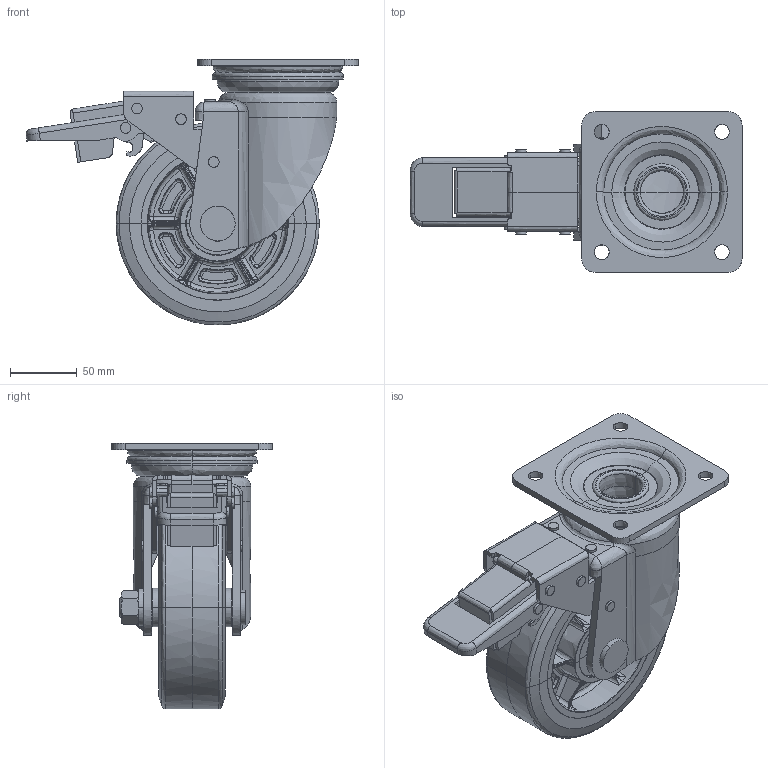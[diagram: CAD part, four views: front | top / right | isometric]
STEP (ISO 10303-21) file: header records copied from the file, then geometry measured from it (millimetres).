
FILE_DESCRIPTION (( 'STEP AP214' ), '1' );
FILE_NAME ('HP-150WJS.STEP', '2023-06-28T06:19:36', ( 'sakai' ), ( 'Hewlett-Packard' ), 'SwSTEP 2.0', 'SolidWorks 2010', '' );
FILE_SCHEMA (( 'AUTOMOTIVE_DESIGN' ));
Length unit declared in the file: millimetre
Products named in the file (15): Part23; HP-150WJS-ALL-1; HP-150WJS-ALL-2; HP-150WJS-ALL-3; HP-150WJS-ALL-4; HP-150WJS-ALL-5; HP-150WJS-ALL-6; HP-150WJS-ALL-7; HP-150WJS-ALL-8; HP-150WJS-ALL-9; HP-150WJS-ALL-10; HP-150WJS-ALL-11; HP-150WJS-ALL-12; HP-150WJS-ALL-13; HP-150WJS
Assembly tree (14 placements, depth 2):
  HP-150WJS
    HP-150WJS-ALL-1
    HP-150WJS-ALL-9
    HP-150WJS-ALL-13
    HP-150WJS-ALL-5
    HP-150WJS-ALL-8
    HP-150WJS-ALL-11
    HP-150WJS-ALL-4
    HP-150WJS-ALL-7
    HP-150WJS-ALL-3
    HP-150WJS-ALL-2
    HP-150WJS-ALL-6
    HP-150WJS-ALL-10
    Part23
    HP-150WJS-ALL-12
Bounding box: 248.57 x 120 x 199 mm (x, y, z)
Volume: 443363.5 mm3; surface area: 338282.7 mm2
Topology: 13 solids, 35 shells, 1393 faces, 4125 edges, 2721 vertices
Faces by surface type: bspline 1109, plane 284
Entity records: 142606 total; most frequent: CARTESIAN_POINT 108296, ORIENTED_EDGE 7956, EDGE_CURVE 4073, B_SPLINE_CURVE_WITH_KNOTS 3731, VERTEX_POINT 2721, EDGE_LOOP 1468, FACE_OUTER_BOUND 1393, ADVANCED_FACE 1393
